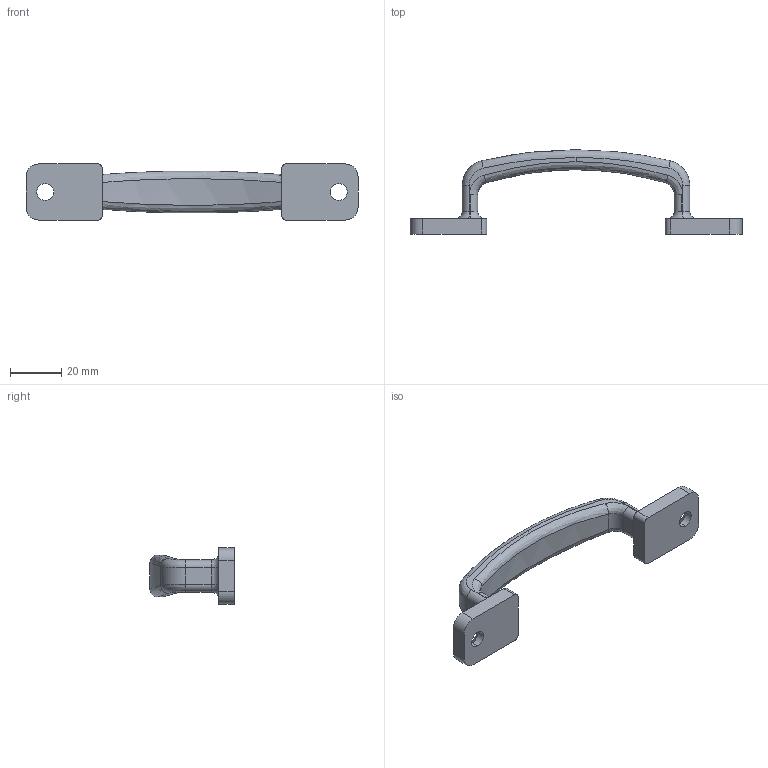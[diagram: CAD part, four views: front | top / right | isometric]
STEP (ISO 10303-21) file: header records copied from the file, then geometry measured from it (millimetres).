
FILE_DESCRIPTION (( 'STEP AP203' ), '1' );
FILE_NAME ('E10-20682.STEP', '2024-10-29T06:03:01', ( '' ), ( '' ), 'SwSTEP 2.0', 'SolidWorks 2021', '' );
FILE_SCHEMA (( 'CONFIG_CONTROL_DESIGN' ));
Length unit declared in the file: millimetre
Products named in the file (1): E10-20682
Bounding box: 130 x 33 x 22 mm (x, y, z)
Volume: 19033.2 mm3; surface area: 8085.9 mm2
Topology: 1 solids, 1 shells, 77 faces, 182 edges, 109 vertices
Faces by surface type: cylinder 35, plane 16, bspline 12, torus 10, cone 4
Entity records: 3040 total; most frequent: CARTESIAN_POINT 1223, DIRECTION 369, ORIENTED_EDGE 364, EDGE_CURVE 182, AXIS2_PLACEMENT_3D 147, VERTEX_POINT 109, EDGE_LOOP 83, CIRCLE 81
